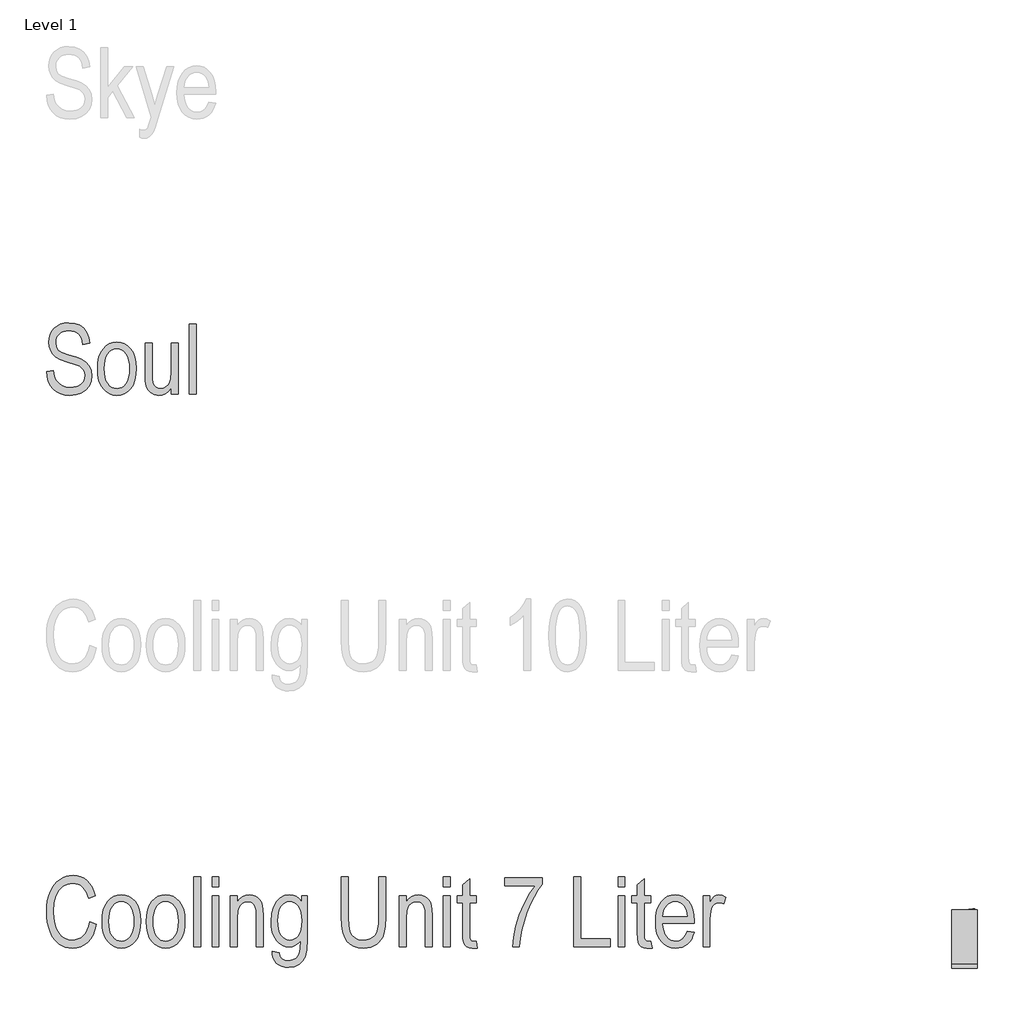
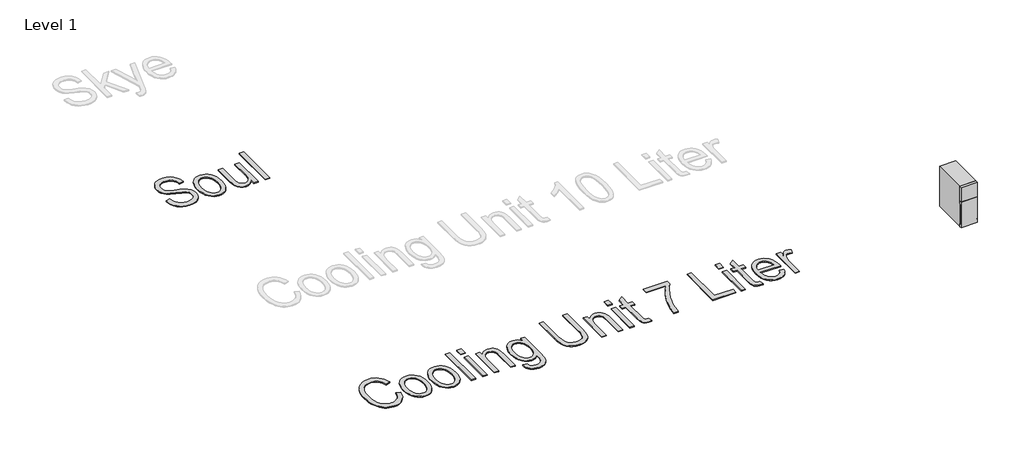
# One storey, part 1 of 3: 3 proxies.
"""IFC4 building model written with IfcOpenShell, lengths in millimetres."""

import ifcopenshell
import ifcopenshell.guid

model = None  # the IFC model being written
_history = None  # IfcOwnerHistory: only IFC2X3 demands one
_inside = {}  # id of a spatial element -> (the spatial element, [elements in it])
_under = {}  # id of a project, library or spatial element -> (it, [spatial elements below it])
_declared = {}  # id of a project -> (the project, [libraries it declares])
_typed = {}  # id of a type object -> (the type object, [elements of that type])
_made_of = {}  # id of a material, layer set ... -> (it, [elements and type objects made of it])


def new_model(schema):
    """Start an empty IFC model of exactly this schema.

    Asked for "IFC4X3", IfcOpenShell would pick the latest addendum, in which some entities
    have other attributes; the version numbers below select the first issue.
    IFC2X3 requires an IfcOwnerHistory on every rooted entity: one is made here for all.
    """
    global model, _history
    if schema == "IFC4X3":
        model = ifcopenshell.file(schema_version=(4, 3, 0, 0))
    else:
        model = ifcopenshell.file(schema=schema)
    _inside.clear()
    _under.clear()
    _declared.clear()
    _typed.clear()
    _made_of.clear()
    _history = None
    if model.schema == "IFC2X3":
        org = make("IfcOrganization", Name="unknown")
        user = make(
            "IfcPersonAndOrganization",
            ThePerson=make("IfcPerson", FamilyName="unknown"),
            TheOrganization=org,
        )
        app = make(
            "IfcApplication",
            ApplicationDeveloper=org,
            Version="unknown",
            ApplicationFullName="unknown",
            ApplicationIdentifier="unknown",
        )
        _history = make(
            "IfcOwnerHistory",
            OwningUser=user,
            OwningApplication=app,
            ChangeAction="ADDED",
            CreationDate=0,
        )
    return model


def make(cls, **values):
    """One entity of the class cls with the attributes given. An attribute that is None is left unset."""
    return model.create_entity(
        cls, **{name: value for name, value in values.items() if value is not None}
    )


def rooted(cls, **values):
    """An entity with a GlobalId (a new one), such as an element, a storey or a relation."""
    return make(cls, GlobalId=ifcopenshell.guid.new(), OwnerHistory=_history, **values)


def si_unit(unit_type, name, prefix=None):
    """IfcSIUnit, for example si_unit("LENGTHUNIT", "METRE", prefix="MILLI")."""
    return make("IfcSIUnit", UnitType=unit_type, Prefix=prefix, Name=name)


def assignment(units):
    """IfcUnitAssignment: the units of a project."""
    return None if units is None else make("IfcUnitAssignment", Units=units)


def point(xyz):
    """IfcCartesianPoint."""
    return None if xyz is None else make("IfcCartesianPoint", Coordinates=xyz)


def direction(xyz):
    """IfcDirection."""
    return None if xyz is None else make("IfcDirection", DirectionRatios=xyz)


def frame(location, z_axis=None, x_axis=None):
    """IfcAxis2Placement3D, a coordinate frame: its origin and axes. An axis left out is left unset."""
    return make(
        "IfcAxis2Placement3D",
        Location=point(location),
        Axis=direction(z_axis),
        RefDirection=direction(x_axis),
    )


def frame_2d(location, x_axis=None):
    """IfcAxis2Placement2D, a coordinate frame in the plane: its origin and x axis."""
    return make(
        "IfcAxis2Placement2D", Location=point(location), RefDirection=direction(x_axis)
    )


def origin():
    """The frame at (0, 0, 0) with its axes left unset."""
    return frame((0.0, 0.0, 0.0))


def origin_with_axes():
    """The frame at (0, 0, 0) with the z axis (0, 0, 1) and the x axis (1, 0, 0) written out."""
    return frame((0.0, 0.0, 0.0), z_axis=(0.0, 0.0, 1.0), x_axis=(1.0, 0.0, 0.0))


def place(relative_to, where):
    """IfcLocalPlacement: puts the frame where relative to a parent placement (None: the world)."""
    return make(
        "IfcLocalPlacement", PlacementRelTo=relative_to, RelativePlacement=where
    )


def context(
    kind, dimensions, precision=None, world=None, true_north=None, identifier=None
):
    """IfcGeometricRepresentationContext, for example the 3D "Model" context."""
    return make(
        "IfcGeometricRepresentationContext",
        ContextIdentifier=identifier,
        ContextType=kind,
        CoordinateSpaceDimension=dimensions,
        Precision=precision,
        WorldCoordinateSystem=world,
        TrueNorth=true_north,
    )


def project(units=None, contexts=None):
    """IfcProject with its units and contexts."""
    return rooted(
        "IfcProject",
        Name="project",
        RepresentationContexts=contexts,
        UnitsInContext=assignment(units),
    )


def spatial(cls, under=None, at=None, **own):
    """A site, building, storey or space (cls), placed at a placement, below another one or the project."""
    s = rooted(cls, ObjectPlacement=at, **own)
    if under is not None:
        _under.setdefault(under.id(), (under, []))[1].append(s)
    return s


def polyline(points):
    """IfcPolyline through the points."""
    return make("IfcPolyline", Points=[point(p) for p in points])


def circle_curve(where, radius):
    """IfcCircle in the frame where."""
    return make("IfcCircle", Position=where, Radius=radius)


def ellipse_curve(where, semi_axis1, semi_axis2):
    """IfcEllipse in the frame where."""
    return make(
        "IfcEllipse", Position=where, SemiAxis1=semi_axis1, SemiAxis2=semi_axis2
    )


def trimmed(basis, trim1, trim2, sense, master):
    """IfcTrimmedCurve: the piece of a basis curve between two trims."""
    return make(
        "IfcTrimmedCurve",
        BasisCurve=basis,
        Trim1=trim1,
        Trim2=trim2,
        SenseAgreement=sense,
        MasterRepresentation=master,
    )


def segment(curve, same_sense, transition):
    """IfcCompositeCurveSegment."""
    return make(
        "IfcCompositeCurveSegment",
        Transition=transition,
        SameSense=same_sense,
        ParentCurve=curve,
    )


def composite_curve(segments, self_intersect=None):
    """IfcCompositeCurve: segments joined end to end."""
    return make("IfcCompositeCurve", Segments=segments, SelfIntersect=self_intersect)


def outline(outer, holes=None, kind="AREA"):
    """IfcArbitraryClosedProfileDef: a profile drawn as a closed curve; with holes, ...WithVoids."""
    if holes is None:
        return make("IfcArbitraryClosedProfileDef", ProfileType=kind, OuterCurve=outer)
    return make(
        "IfcArbitraryProfileDefWithVoids",
        ProfileType=kind,
        OuterCurve=outer,
        InnerCurves=holes,
    )


def extrude(swept, where, along, depth):
    """IfcExtrudedAreaSolid: the profile swept, set in the frame where, extruded along a direction by depth."""
    return make(
        "IfcExtrudedAreaSolid",
        SweptArea=swept,
        Position=where,
        ExtrudedDirection=direction(along),
        Depth=depth,
    )


def shape(context_of_items, identifier, shape_type, items):
    """IfcShapeRepresentation: the items that make up one representation, for example the "Body"."""
    return make(
        "IfcShapeRepresentation",
        ContextOfItems=context_of_items,
        RepresentationIdentifier=identifier,
        RepresentationType=shape_type,
        Items=items,
    )


def source(mapping_origin, context_of_items, identifier, shape_type, items):
    """IfcRepresentationMap: a shape defined once, which mapped items show again and again."""
    return make(
        "IfcRepresentationMap",
        MappingOrigin=mapping_origin,
        MappedRepresentation=shape(context_of_items, identifier, shape_type, items),
    )


def transform(
    local_origin,
    x_axis=None,
    y_axis=None,
    z_axis=None,
    scale=None,
    scale2=None,
    scale3=None,
    uniform=True,
):
    """IfcCartesianTransformationOperator3D, or its non-uniform kind. x_axis, y_axis, z_axis: its Axis1, 2, 3."""
    if uniform:
        return make(
            "IfcCartesianTransformationOperator3D",
            Axis1=direction(x_axis),
            Axis2=direction(y_axis),
            LocalOrigin=point(local_origin),
            Scale=scale,
            Axis3=direction(z_axis),
        )
    return make(
        "IfcCartesianTransformationOperator3DnonUniform",
        Axis1=direction(x_axis),
        Axis2=direction(y_axis),
        LocalOrigin=point(local_origin),
        Scale=scale,
        Axis3=direction(z_axis),
        Scale2=scale2,
        Scale3=scale3,
    )


def mapped(mapping_source, mapping_target):
    """IfcMappedItem: shows the shape of a source again, moved by a transform."""
    return make(
        "IfcMappedItem", MappingSource=mapping_source, MappingTarget=mapping_target
    )


def made_of(thing, what):
    """Note that an element or type object is made of a material, layer set ...; save() writes the relation."""
    if what is not None:
        _made_of.setdefault(what.id(), (what, []))[1].append(thing)
    return thing


def element(
    cls,
    number,
    at=None,
    inside=None,
    cuts=None,
    type_object=None,
    material=None,
    context=None,
    identifier="Body",
    shape_type=None,
    held_by="IfcProductDefinitionShape",
    body=None,
    shapes=None,
    **own,
):
    """One element of the class cls, such as IfcWall. Its Tag is "e" and its number.

    at: its placement. inside: the storey or other place that contains it. cuts: it is an
    opening in that element (IfcRelVoidsElement). A single representation is given by context,
    identifier, shape_type and body (its items); several are given by shapes. held_by: the class
    of the entity that holds the representations. save() writes the other relations.
    """
    e = rooted(cls, Tag="e%d" % number, ObjectPlacement=at, **own)
    if body is not None:
        shapes = [shape(context, identifier, shape_type, body)]
    if shapes is not None:
        e.Representation = make(held_by, Representations=shapes)
    if inside is not None:
        _inside.setdefault(inside.id(), (inside, []))[1].append(e)
    if cuts is not None:
        rooted(
            "IfcRelVoidsElement", RelatingBuildingElement=cuts, RelatedOpeningElement=e
        )
    if type_object is not None:
        _typed.setdefault(type_object.id(), (type_object, []))[1].append(e)
    return made_of(e, material)


def aggregate(whole, parts):
    """IfcRelAggregates: a whole, such as a stair, and the parts it consists of."""
    return rooted("IfcRelAggregates", RelatingObject=whole, RelatedObjects=parts)


def save(model, path):
    """Write the relations noted so far, then the file.

    IfcRelAggregates (storeys below a building ...), IfcRelContainedInSpatialStructure (elements
    in a storey), IfcRelDefinesByType, IfcRelAssociatesMaterial and IfcRelDeclares: one each for
    every whole, place, type object, material and project.
    """
    for whole, parts in _under.values():
        aggregate(whole, parts)
    for where, things in _inside.values():
        rooted(
            "IfcRelContainedInSpatialStructure",
            RelatedElements=things,
            RelatingStructure=where,
        )
    for kind, things in _typed.values():
        rooted("IfcRelDefinesByType", RelatedObjects=things, RelatingType=kind)
    for what, things in _made_of.values():
        rooted("IfcRelAssociatesMaterial", RelatedObjects=things, RelatingMaterial=what)
    for by, libraries in _declared.values():
        rooted("IfcRelDeclares", RelatingContext=by, RelatedDefinitions=libraries)
    model.write(path)


def plane_surface(at):
    """IfcPlane: the flat surface through the origin of the frame at, square to its z axis."""
    return make("IfcPlane", Position=at)


def revolved_surface(curve, axis_point, axis_direction):
    """IfcSurfaceOfRevolution: the curve turned about the line through axis_point along axis_direction."""
    return make(
        "IfcSurfaceOfRevolution",
        SweptCurve=make("IfcArbitraryOpenProfileDef", ProfileType="CURVE", Curve=curve),
        AxisPosition=make("IfcAxis1Placement", Location=point(axis_point), Axis=direction(axis_direction)),
    )


def advanced_brep(points, edges, surfaces, faces):
    """IfcAdvancedBrep: a solid bounded by faces that lie on surfaces and meet in shared edges.

    An edge is (start, end): straight between two places in points (the first is 0);
    or (start, end, curve); or (start, end, curve, False) where it runs against its curve.
    A face is (place in surfaces, loops), or (place, loops, False) where it looks against
    its surface's normal. A loop lists edges by number (the first is 1), with a minus sign
    where the edge is run from its end to its start. The first loop is the outer one.
    """
    corners = [point(p) for p in points]
    vertices = [make("IfcVertexPoint", VertexGeometry=c) for c in corners]
    made = []
    for start, end, *more in edges:
        made.append(
            make(
                "IfcEdgeCurve",
                EdgeStart=vertices[start],
                EdgeEnd=vertices[end],
                EdgeGeometry=more[0] if more else make("IfcPolyline", Points=[corners[start], corners[end]]),
                SameSense=more[1] if len(more) > 1 else True,
            )
        )
    hull = []
    for where, loops, *sense in faces:
        bounds = []
        for j, loop in enumerate(loops):
            ring = [make("IfcOrientedEdge", EdgeElement=made[abs(k) - 1], Orientation=k > 0) for k in loop]
            bounds.append(
                make(
                    "IfcFaceOuterBound" if j == 0 else "IfcFaceBound",
                    Bound=make("IfcEdgeLoop", EdgeList=ring),
                    Orientation=True,
                )
            )
        hull.append(make("IfcAdvancedFace", Bounds=bounds, FaceSurface=surfaces[where], SameSense=sense[0] if sense else True))
    return make("IfcAdvancedBrep", Outer=make("IfcClosedShell", CfsFaces=hull))


def specialty_equipment_9da87bf8(model_context):
    return source(origin(), model_context, "Body", "SolidModel", [
        extrude(outline(polyline([(58.778379, 8.795824), (58.778379, 12.5374018), (72.4183514, 12.5374018), (72.4183514, 8.795824), (58.778379, 8.795824)])), frame((0.0, 0.0, 58.9800138), z_axis=(0.0, 0.0, 1.0), x_axis=(1.0, 0.0, 0.0)), (0.0, 0.0, 1.0), 18.567318),
        extrude(outline(polyline([(75.5441022, 4.795824), (55.6526282, 4.795824), (55.6526282, 8.795824), (75.5441022, 8.795824), (75.5441022, 4.795824)])), frame((0.0, 0.0, 55.6), z_axis=(0.0, 0.0, 1.0), x_axis=(1.0, 0.0, 0.0)), (0.0, 0.0, 1.0), 25.195737),
        extrude(outline(polyline([(50.3483652, 4.795824), (27.8483652, 4.795824), (27.8483652, 8.795824), (50.3483652, 8.795824), (50.3483652, 4.795824)])), frame((0.0, 0.0, 53.1), z_axis=(0.0, 0.0, 1.0), x_axis=(1.0, 0.0, 0.0)), (0.0, 0.0, 1.0), 30.0),
        advanced_brep(
        [(-94.0051167, -419.004176, 320.7768465), (89.3098471, -419.004176, 320.7768465), (90.8173493, -394.0019593, 320.7768465), (-95.512619, -394.0019593, 320.7768465), (-94.0051167, -419.004176, 11.6), (-95.512619, -394.0019593, 11.6), (90.8173493, -394.0019593, 11.6), (89.3098471, -419.004176, 11.6), (90.8173493, -394.0019593, 290.4933922), (83.5523652, -394.0019593, 290.4933922), (83.5523652, -394.0019593, 42.6090434), (90.8173493, -394.0019593, 42.6090434), (-95.512619, -394.0019593, 42.6090434), (-88.2476348, -394.0019593, 42.6090434), (-88.2476348, -394.0019593, 290.4933922), (-95.512619, -394.0019593, 290.4933922), (-95.0244948, -402.097593, 287.5468225), (-94.6674402, -408.0194117, 279.0895889), (-94.6674402, -408.0194117, 54.7130542), (-95.0641675, -401.4396132, 45.316128), (90.3688979, -401.4396132, 45.316128), (89.9721706, -408.0194117, 54.7130542), (89.9721706, -408.0194117, 279.0895889), (90.3292252, -402.097593, 287.5468225), (-88.2476348, -402.097593, 287.5468225), (-88.2476348, -401.4396132, 45.316128), (-88.2476348, -408.0194117, 54.7130542), (-88.2476348, -408.0194117, 279.0895889), (83.5523652, -402.097593, 287.5468225), (83.5523652, -408.0194117, 279.0895889), (83.5523652, -408.0194117, 54.7130542), (83.5523652, -401.4396132, 45.316128)],
        [
            (0, 1),
            (1, 2),
            (2, 3),
            (3, 0),
            (4, 5),
            (5, 6),
            (6, 7),
            (7, 4),
            (0, 4),
            (7, 1),
            (2, 8),
            (8, 9),
            (9, 10),
            (10, 11),
            (11, 6),
            (5, 12),
            (12, 13),
            (13, 14),
            (14, 15),
            (15, 3),
            (15, 16),
            (16, 17, ellipse_curve(frame((-95.2100929, -399.0194117, 279.0895889), z_axis=(0.9981872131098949, 0.06018544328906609, 0.0), x_axis=(0.06018544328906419, -0.9981872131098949, 0.0)), 9.0163447, 9.0)),
            (17, 18),
            (18, 19, ellipse_curve(frame((-95.2703877, -398.0194117, 54.7130542), z_axis=(0.9981872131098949, 0.06018544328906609, 0.0), x_axis=(0.06018544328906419, -0.9981872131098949, 0.0)), 10.0181608, 10.0)),
            (19, 12),
            (11, 20),
            (20, 21, ellipse_curve(frame((90.5751181, -398.0194117, 54.7130542), z_axis=(-0.9981872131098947, 0.060185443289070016, 0.0), x_axis=(-0.06018544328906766, -0.9981872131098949, 0.0)), 10.0181608, 10.0)),
            (21, 22),
            (22, 23, ellipse_curve(frame((90.5148233, -399.0194117, 279.0895889), z_axis=(-0.9981872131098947, 0.060185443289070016, 0.0), x_axis=(-0.06018544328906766, -0.9981872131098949, 0.0)), 9.0163447, 9.0)),
            (23, 8),
            (24, 14),
            (13, 25),
            (25, 26, circle_curve(frame((-88.2476348, -398.0194117, 54.7130542), z_axis=(-1.0, 0.0, 0.0), x_axis=(0.0, -1.0, 0.0)), 10.0)),
            (26, 27),
            (27, 24, circle_curve(frame((-88.2476348, -399.0194117, 279.0895889), z_axis=(-1.0, 0.0, 0.0), x_axis=(0.0, -1.0, 0.0)), 9.0)),
            (27, 17),
            (16, 24),
            (26, 18),
            (25, 19),
            (28, 29, circle_curve(frame((83.5523652, -399.0194117, 279.0895889), z_axis=(1.0, 0.0, 0.0), x_axis=(0.0, -1.0, 0.0)), 9.0)),
            (29, 30),
            (30, 31, circle_curve(frame((83.5523652, -398.0194117, 54.7130542), z_axis=(1.0, 0.0, 0.0), x_axis=(0.0, -1.0, 0.0)), 10.0)),
            (31, 10),
            (9, 28),
            (28, 23),
            (22, 29),
            (21, 30),
            (20, 31),
        ],
        [
            plane_surface(frame((-136.410899, -419.004176, 320.7768465), z_axis=(0.0, 0.0, 1.0), x_axis=(1.0, 0.0, 0.0))),
            plane_surface(frame((-136.410899, -419.004176, 11.6), z_axis=(0.0, 0.0, -1.0), x_axis=(-1.0, 0.0, 0.0))),
            plane_surface(frame((-94.0051167, -419.004176, 320.7768465), z_axis=(0.0, -1.0, 0.0), x_axis=(0.0, 0.0, -1.0))),
            plane_surface(frame((90.8173493, -394.0019593, 320.7768465), z_axis=(0.0, 1.0, 0.0), x_axis=(0.0, 0.0, -1.0))),
            plane_surface(frame((-95.512619, -394.0019593, 320.7768465), z_axis=(-0.9981872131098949, -0.06018544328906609, 0.0), x_axis=(0.0, 0.0, -1.0))),
            plane_surface(frame((89.3098471, -419.004176, 320.7768465), z_axis=(0.9981872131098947, -0.060185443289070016, 0.0), x_axis=(0.0, 0.0, -1.0))),
            plane_surface(frame((-88.2476348, -408.0194117, 279.0895889), z_axis=(-1.0, 0.0, 0.0), x_axis=(0.0, 0.0, -1.0))),
            revolved_surface(polyline([(-88.2476348, -408.0194117, 279.0895889), (-95.75274560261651, -408.0194117, 279.0895889)]), (-95.7476348, -399.0194117, 279.0895889), (1.0, 0.0, 0.0)),
            plane_surface(frame((-88.2476348, -408.0194117, 279.0895889), z_axis=(0.0, 1.0, 0.0), x_axis=(-1.0, 0.0, 0.0))),
            revolved_surface(polyline([(-88.2476348, -408.0194117, 54.7130542), (-95.87333514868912, -408.0194117, 54.7130542)]), (-95.7476348, -398.0194117, 54.7130542), (1.0, 0.0, 0.0)),
            plane_surface(frame((-88.2476348, -401.4396132, 45.316128), z_axis=(0.0, 0.34202014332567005, 0.939692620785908), x_axis=(-1.0, 0.0, 0.0))),
            plane_surface(frame((-88.2476348, -394.0019593, 290.4933922), z_axis=(0.0, 0.3420201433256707, -0.9396926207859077), x_axis=(-1.0, 0.0, 0.0))),
            plane_surface(frame((83.5523652, -395.4757807, 289.9569651), z_axis=(1.0, 0.0, 0.0), x_axis=(0.0, 0.9396926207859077, 0.3420201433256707))),
            revolved_surface(polyline([(83.5523652, -408.0194117, 279.0895889), (91.05747600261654, -408.0194117, 279.0895889)]), (91.0523652, -399.0194117, 279.0895889), (-1.0, 0.0, 0.0)),
            plane_surface(frame((83.5523652, -408.0194117, 54.7130542), z_axis=(0.0, 1.0, 0.0), x_axis=(1.0, 0.0, 0.0))),
            revolved_surface(polyline([(83.5523652, -408.0194117, 54.7130542), (91.17806554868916, -408.0194117, 54.7130542)]), (91.0523652, -398.0194117, 54.7130542), (-1.0, 0.0, 0.0)),
            plane_surface(frame((83.5523652, -394.0019593, 42.6090434), z_axis=(0.0, 0.34202014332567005, 0.939692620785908), x_axis=(1.0, 0.0, 0.0))),
            plane_surface(frame((83.5523652, -402.097593, 287.5468225), z_axis=(0.0, 0.3420201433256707, -0.9396926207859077), x_axis=(1.0, 0.0, 0.0))),
        ],
        [
            (0, [[1, 2, 3, 4]]),
            (1, [[5, 6, 7, 8]]),
            (2, [[-1, 9, -8, 10]]),
            (3, [[-3, 11, 12, 13, 14, 15, -6, 16, 17, 18, 19, 20]]),
            (4, [[-4, -20, 21, 22, 23, 24, 25, -16, -5, -9]]),
            (5, [[-2, -10, -7, -15, 26, 27, 28, 29, 30, -11]]),
            (6, [[31, -18, 32, 33, 34, 35]]),
            (7, [[-35, 36, -22, 37]]),
            (8, [[-34, 38, -23, -36]]),
            (9, [[-33, 39, -24, -38]]),
            (10, [[-32, -17, -25, -39]]),
            (11, [[-31, -37, -21, -19]]),
            (12, [[40, 41, 42, 43, -13, 44]]),
            (13, [[-40, 45, -29, 46]]),
            (14, [[-41, -46, -28, 47]]),
            (15, [[-42, -47, -27, 48]]),
            (16, [[-43, -48, -26, -14]]),
            (17, [[-44, -12, -30, -45]]),
        ],
    ),
        extrude(outline(polyline([(-94.0051167, -419.004176), (-95.7476348, -390.104176), (91.0523652, -390.104176), (89.3098471, -419.004176), (-94.0051167, -419.004176)])), frame((0.0, 0.0, 321.8461849), z_axis=(0.0, 0.0, 1.0), x_axis=(1.0, 0.0, 0.0)), (0.0, 0.0, 1.0), 173.2368397),
        extrude(outline(composite_curve([segment(trimmed(circle_curve(frame_2d((-61.8476348, -356.004176)), 3.1), [point((-64.9476348, -356.004176))], [point((-58.7476348, -356.004176))], False, "CARTESIAN"), True, "CONTINUOUS"), segment(trimmed(circle_curve(frame_2d((-61.8476348, -356.004176)), 3.1), [point((-58.7476348, -356.004176))], [point((-64.9476348, -356.004176))], False, "CARTESIAN"), True, "CONTINUOUS")], self_intersect=False)), frame((0.0, 0.0, 6.1), z_axis=(0.0, 0.0, 1.0), x_axis=(1.0, 0.0, 0.0)), (0.0, 0.0, 1.0), 5.5),
        extrude(outline(composite_curve([segment(trimmed(circle_curve(frame_2d((57.1523652, -356.004176)), 3.1), [point((60.2523652, -356.004176))], [point((54.0523652, -356.004176))], False, "CARTESIAN"), True, "CONTINUOUS"), segment(trimmed(circle_curve(frame_2d((57.1523652, -356.004176)), 3.1), [point((54.0523652, -356.004176))], [point((60.2523652, -356.004176))], False, "CARTESIAN"), True, "CONTINUOUS")], self_intersect=False)), frame((0.0, 0.0, 6.1), z_axis=(0.0, 0.0, 1.0), x_axis=(1.0, 0.0, 0.0)), (0.0, 0.0, 1.0), 5.5),
        extrude(outline(composite_curve([segment(trimmed(circle_curve(frame_2d((-61.8476348, -64.504176)), 3.1), [point((-64.9476348, -64.504176))], [point((-58.7476348, -64.504176))], False, "CARTESIAN"), True, "CONTINUOUS"), segment(trimmed(circle_curve(frame_2d((-61.8476348, -64.504176)), 3.1), [point((-58.7476348, -64.504176))], [point((-64.9476348, -64.504176))], False, "CARTESIAN"), True, "CONTINUOUS")], self_intersect=False)), frame((0.0, 0.0, 6.1), z_axis=(0.0, 0.0, 1.0), x_axis=(1.0, 0.0, 0.0)), (0.0, 0.0, 1.0), 5.5),
        extrude(outline(composite_curve([segment(trimmed(circle_curve(frame_2d((57.1523652, -64.504176)), 3.1), [point((60.2523652, -64.504176))], [point((54.0523652, -64.504176))], False, "CARTESIAN"), True, "CONTINUOUS"), segment(trimmed(circle_curve(frame_2d((57.1523652, -64.504176)), 3.1), [point((54.0523652, -64.504176))], [point((60.2523652, -64.504176))], False, "CARTESIAN"), True, "CONTINUOUS")], self_intersect=False)), frame((0.0, 0.0, 6.1), z_axis=(0.0, 0.0, 1.0), x_axis=(1.0, 0.0, 0.0)), (0.0, 0.0, 1.0), 5.5),
        extrude(outline(composite_curve([segment(trimmed(circle_curve(frame_2d((-61.8476348, -356.004176)), 12.0), [point((-73.8476348, -356.004176))], [point((-49.8476348, -356.004176))], False, "CARTESIAN"), True, "CONTINUOUS"), segment(trimmed(circle_curve(frame_2d((-61.8476348, -356.004176)), 12.0), [point((-49.8476348, -356.004176))], [point((-73.8476348, -356.004176))], False, "CARTESIAN"), True, "CONTINUOUS")], self_intersect=False)), origin_with_axes(), (0.0, 0.0, 1.0), 6.1),
        extrude(outline(composite_curve([segment(trimmed(circle_curve(frame_2d((57.1523652, -356.004176)), 12.0), [point((69.1523652, -356.004176))], [point((45.1523652, -356.004176))], False, "CARTESIAN"), True, "CONTINUOUS"), segment(trimmed(circle_curve(frame_2d((57.1523652, -356.004176)), 12.0), [point((45.1523652, -356.004176))], [point((69.1523652, -356.004176))], False, "CARTESIAN"), True, "CONTINUOUS")], self_intersect=False)), origin_with_axes(), (0.0, 0.0, 1.0), 6.1),
        extrude(outline(composite_curve([segment(trimmed(circle_curve(frame_2d((-61.8476348, -64.504176)), 12.0), [point((-73.8476348, -64.504176))], [point((-49.8476348, -64.504176))], False, "CARTESIAN"), True, "CONTINUOUS"), segment(trimmed(circle_curve(frame_2d((-61.8476348, -64.504176)), 12.0), [point((-49.8476348, -64.504176))], [point((-73.8476348, -64.504176))], False, "CARTESIAN"), True, "CONTINUOUS")], self_intersect=False)), origin_with_axes(), (0.0, 0.0, 1.0), 6.1),
        extrude(outline(composite_curve([segment(trimmed(circle_curve(frame_2d((57.1523652, -64.504176)), 12.0), [point((69.1523652, -64.504176))], [point((45.1523652, -64.504176))], False, "CARTESIAN"), True, "CONTINUOUS"), segment(trimmed(circle_curve(frame_2d((57.1523652, -64.504176)), 12.0), [point((45.1523652, -64.504176))], [point((69.1523652, -64.504176))], False, "CARTESIAN"), True, "CONTINUOUS")], self_intersect=False)), origin_with_axes(), (0.0, 0.0, 1.0), 6.1),
        extrude(outline(polyline([(91.0523652, 4.795824), (91.0523652, -390.104176), (-95.7476348, -390.104176), (-95.7476348, 4.795824), (91.0523652, 4.795824)])), frame((0.0, 0.0, 11.6), z_axis=(0.0, 0.0, 1.0), x_axis=(1.0, 0.0, 0.0)), (0.0, 0.0, 1.0), 483.4830247),
    ])


model = new_model("IFC4")

# Units and contexts
model_context = context("Model", 3, world=origin())
ifc_project = project(units=[si_unit("LENGTHUNIT", "METRE", prefix="MILLI")], contexts=[model_context])

# Site, building, storey
site = spatial("IfcSite", under=ifc_project)
building = spatial("IfcBuilding", under=site)
storey = spatial("IfcBuildingStorey", under=building, Name="Level 1", Elevation=0.0)

# Proxies
placement = place(None, origin())
specialty_equipment_shape = specialty_equipment_9da87bf8(model_context)
element("IfcBuildingElementProxy", 1, Name="QF_SCHAERER_Cooling_Unit 7 Liter : Cooling Unit 7 Liter", ObjectType="QF_SCHAERER_Cooling_Unit 7 Liter : Cooling Unit 7 Liter", at=placement, inside=storey, context=model_context, shape_type="MappedRepresentation", body=[
    mapped(specialty_equipment_shape, transform((-22737.7283939, 2887.7616131, 0.0), x_axis=(1.0, 0.0, 0.0), y_axis=(0.0, 1.0, 0.0), z_axis=(0.0, 0.0, 1.0))),
])
element("IfcBuildingElementProxy", 2, Name="500mm", ObjectType="500mm", at=placement, inside=storey, context=model_context, shape_type="SweptSolid", body=[
    extrude(outline(polyline([(-29380.882871, 6787.0556777), (-29331.6607147, 6795.2593704), (-29324.7548718, 6756.0514874), (-29312.4974012, 6726.6175352), (-29294.3435265, 6704.473974), (-29269.7484711, 6687.1372639), (-29240.2023591, 6675.9373006), (-29207.1953141, 6672.2039795), (-29183.5976804, 6673.7061205), (-29162.7960318, 6678.2125435), (-29144.7903683, 6685.7232485), (-29129.58069, 6696.2382356), (-29117.4954649, 6709.1566482), (-29108.8631613, 6723.87763), (-29103.6837791, 6740.401181), (-29101.9573184, 6758.7273012), (-29104.4729038, 6779.8454009), (-29112.0196602, 6798.0793898), (-29124.6456561, 6813.3491538), (-29142.3989599, 6825.5745787), (-29174.4927031, 6838.7613738), (-29230.1400172, 6856.9152485), (-29281.1086628, 6875.1812831), (-29314.0355936, 6893.0627696), (-29335.2818759, 6913.1393848), (-29351.2085762, 6937.9908055), (-29361.1587582, 6967.008164), (-29364.4754856, 6999.5825923), (-29362.0480257, 7029.0646131), (-29354.7656461, 7055.7266144), (-29342.6283468, 7079.5685964), (-29325.6361278, 7100.590559), (-29304.534051, 7117.7510178), (-29280.0671784, 7130.0084884), (-29252.2355099, 7137.3629707), (-29221.0390456, 7139.8144649), (-29178.6265951, 7135.3440932), (-29141.8862291, 7121.9329784), (-29111.7793177, 7100.1739652), (-29089.2672312, 7070.6598988), (-29074.8787232, 7034.3361266), (-29069.1425475, 6992.1479958), (-29118.3647038, 6983.9443031), (-29121.7495282, 7007.3817084), (-29127.802155, 7027.5744892), (-29136.5225843, 7044.5226454), (-29147.9108159, 7058.226177), (-29161.9187815, 7068.797244), (-29178.4984124, 7076.3480061), (-29197.6497088, 7080.8784634), (-29219.3726705, 7082.3886158), (-29241.3760319, 7080.910509), (-29260.599431, 7076.4761888), (-29277.0428678, 7069.0856551), (-29290.7063424, 7058.7389078), (-29301.4456491, 7046.0448149), (-29309.1165825, 7031.6122442), (-29313.7191426, 7015.4411956), (-29315.2533292, 6997.5316692), (-29311.2796656, 6966.6075931), (-29299.3586746, 6943.5667529), (-29288.4471223, 6934.057199), (-29271.4789376, 6924.7559419), (-29219.3726705, 6906.7783184), (-29165.8243481, 6890.6272983), (-29131.054791, 6876.7835669), (-29096.9902388, 6854.5919371), (-29072.4752976, 6827.4973192), (-29057.6701959, 6795.1151649), (-29052.735162, 6757.0609262), (-29057.7983786, 6718.2375912), (-29072.9880284, 6683.0354176), (-29096.8780789, 6653.633511), (-29128.0424976, 6632.2109775), (-29166.3851474, 6619.1363422), (-29211.8098913, 6614.7781305), (-29248.1296578, 6617.6822697), (-29280.5638864, 6626.3946875), (-29309.1125768, 6640.9153839), (-29333.7757292, 6661.2443588), (-29353.7602131, 6686.5324018), (-29368.272898, 6715.9303027), (-29377.313784, 6749.4380613), (-29380.882871, 6787.0556777)])), origin_with_axes(), (0.0, 0.0, 1.0), 10.0),
    extrude(outline(polyline([(-29011.7166984, 6807.5649095), (-29009.2491814, 6852.3847913), (-29001.8466306, 6891.348326), (-28989.5090458, 6924.4555137), (-28972.2364272, 6951.7063543), (-28951.1824189, 6972.988688), (-28927.5006653, 6988.190355), (-28901.1911663, 6997.3113551), (-28872.2539221, 7000.3516885), (-28843.7332716, 6997.3113551), (-28817.6480924, 6988.190355), (-28793.9983844, 6972.988688), (-28772.7841478, 6951.7063543), (-28755.2872094, 6924.6958563), (-28742.7893963, 6892.3096963), (-28735.2907084, 6854.5478743), (-28732.7911458, 6811.4103905), (-28735.2466456, 6764.9081107), (-28742.613145, 6724.7428632), (-28754.8906442, 6690.9146478), (-28772.0791429, 6663.4234647), (-28793.0730656, 6642.1411309), (-28816.7668363, 6626.939464), (-28843.1604552, 6617.8184638), (-28872.2539221, 6614.7781305), (-28900.9307952, 6617.8264753), (-28927.1000943, 6626.9715097), (-28950.7618194, 6642.2132337), (-28971.9159704, 6663.5516474), (-28989.3287889, 6690.8425451), (-29001.7665164, 6723.9417213), (-29009.2291529, 6762.8491761), (-29011.7166984, 6807.5649095)]), holes=[polyline([(-28962.4945421, 6807.6930922), (-28960.8481955, 6773.6766085), (-28955.9091559, 6744.3067476), (-28947.6774232, 6719.5835096), (-28936.1529974, 6699.5068944), (-28922.1931004, 6683.9727536), (-28906.6549539, 6672.8769387), (-28889.5385579, 6666.2194498), (-28870.8439124, 6664.0002868), (-28853.2268027, 6666.2394783), (-28836.9075429, 6672.9570529), (-28821.8861329, 6684.1530105), (-28808.1625727, 6699.8273511), (-28796.7222668, 6720.0041091), (-28788.5506197, 6744.7073186), (-28783.6476315, 6773.9369796), (-28782.0133021, 6807.6930922), (-28783.6596486, 6841.597416), (-28788.5986883, 6870.8871627), (-28796.8304209, 6895.5623322), (-28808.3548467, 6915.6229246), (-28822.3147438, 6931.1570654), (-28837.8528903, 6942.2528803), (-28854.9692863, 6948.9103692), (-28873.6639318, 6951.1295322), (-28891.4372641, 6948.8983521), (-28907.8406438, 6942.2048118), (-28922.874071, 6931.0489113), (-28936.5375455, 6915.4306506), (-28947.8937315, 6895.3099725), (-28956.0052929, 6870.6468201), (-28960.8722298, 6841.4411934), (-28962.4945421, 6807.6930922)])]), origin_with_axes(), (0.0, 0.0, 1.0), 10.0),
    extrude(outline(polyline([(-28478.4766713, 6622.9818232), (-28478.4766713, 6672.844893), (-28496.7427059, 6647.4807415), (-28517.9569425, 6629.3268668), (-28542.1193812, 6618.4153145), (-28569.230022, 6614.7781305), (-28600.6027376, 6619.6010045), (-28627.0404192, 6634.0696266), (-28647.0369202, 6655.9247768), (-28659.0860939, 6682.9072349), (-28665.1427264, 6717.8209975), (-28667.161604, 6763.4700611), (-28667.161604, 6992.1479958), (-28617.9394476, 6992.1479958), (-28617.9394476, 6784.4920237), (-28616.5454608, 6736.2472604), (-28612.3635002, 6707.133765), (-28604.40015, 6689.5246667), (-28591.6619943, 6675.7930951), (-28575.4789286, 6666.9484889), (-28557.1808484, 6664.0002868), (-28540.0364124, 6665.9150159), (-28524.4942602, 6671.6592031), (-28510.5543917, 6681.2328484), (-28498.2168069, 6694.6359518), (-28489.5804976, 6710.5946978), (-28483.4117052, 6732.0652999), (-28478.4766713, 6791.5420721), (-28478.4766713, 6992.1479958), (-28429.2545149, 6992.1479958), (-28429.2545149, 6622.9818232), (-28478.4766713, 6622.9818232)])), origin_with_axes(), (0.0, 0.0, 1.0), 10.0),
    extrude(outline(polyline([(-28347.2175877, 6622.9818232), (-28347.2175877, 7131.6107721), (-28297.9954313, 7131.6107721), (-28297.9954313, 6622.9818232), (-28347.2175877, 6622.9818232)])), origin_with_axes(), (0.0, 0.0, 1.0), 10.0),
])
element("IfcBuildingElementProxy", 3, Name="500mm", ObjectType="500mm", at=placement, inside=storey, context=model_context, shape_type="SweptSolid", body=[
    extrude(outline(polyline([(-29069.1425475, 2803.4630631), (-29019.9203911, 2787.0556777), (-29030.5835894, 2746.4177564), (-29044.6276063, 2711.2836798), (-29062.0524419, 2681.6534479), (-29082.8580963, 2657.5270605), (-29106.579907, 2638.8244036), (-29132.7532118, 2625.465363), (-29161.3780107, 2617.4499386), (-29192.4543038, 2614.7781305), (-29219.7572186, 2616.5406426), (-29245.0092103, 2621.8281789), (-29268.2102788, 2630.6407394), (-29289.3604241, 2642.9783242), (-29308.5718061, 2659.2134641), (-29325.9565846, 2679.7186902), (-29341.5147597, 2704.4940025), (-29355.2463313, 2733.5394009), (-29366.4623174, 2766.1258464), (-29374.4737361, 2801.5242998), (-29379.2805873, 2839.7347612), (-29380.882871, 2880.7572305), (-29379.284593, 2921.0586722), (-29374.4897589, 2958.1315121), (-29366.4983688, 2991.9757503), (-29355.3104226, 3022.5913868), (-29341.3945884, 3049.8181931), (-29325.2195341, 3073.495941), (-29306.7852597, 3093.6246305), (-29286.0917652, 3110.2042614), (-29263.631753, 3123.1587254), (-29239.8979252, 3132.411914), (-29214.8902818, 3137.9638271), (-29188.6088228, 3139.8144649), (-29160.1682865, 3137.4711249), (-29133.810719, 3130.441105), (-29109.5361204, 3118.7244052), (-29087.3444907, 3102.3210254), (-29067.7806063, 3081.3751713), (-29051.3892437, 3056.0310483), (-29038.1704029, 3026.2886565), (-29028.1240839, 2992.1479958), (-29077.3462402, 2975.7406104), (-29094.9873841, 3022.3991127), (-29106.4637414, 3040.7292387), (-29119.7106222, 3055.7266144), (-29134.7280265, 3067.39124), (-29151.5159543, 3075.7231154), (-29170.0744057, 3080.7222407), (-29190.4033806, 3082.3886158), (-29229.867629, 3077.0690338), (-29263.6597929, 3061.1102878), (-29278.3607462, 3048.9850056), (-29291.5074843, 3033.8874871), (-29313.1383147, 2994.7757411), (-29327.0301147, 2943.7430042), (-29331.6607147, 2880.7572305), (-29329.3053576, 2831.9035994), (-29322.2392863, 2789.5552403), (-29310.4625009, 2753.7121531), (-29293.9750012, 2724.3743379), (-29273.5859407, 2701.5498061), (-29250.1044725, 2685.2465691), (-29223.5305968, 2675.4646269), (-29193.8643134, 2672.2039795), (-29171.5244725, 2674.2388799), (-29150.7789038, 2680.3435809), (-29131.6276074, 2690.5180826), (-29114.0705834, 2704.762385), (-29098.6926653, 2723.1405795), (-29086.0786866, 2745.7167573), (-29076.2286473, 2772.4909185), (-29069.1425475, 2803.4630631)])), origin_with_axes(), (0.0, 0.0, 1.0), 10.0),
    extrude(outline(polyline([(-28978.9019275, 2807.5649095), (-28976.4344105, 2852.3847913), (-28969.0318597, 2891.348326), (-28956.6942749, 2924.4555137), (-28939.4216563, 2951.7063543), (-28918.367648, 2972.988688), (-28894.6858944, 2988.190355), (-28868.3763954, 2997.3113551), (-28839.4391512, 3000.3516885), (-28810.9185007, 2997.3113551), (-28784.8333215, 2988.190355), (-28761.1836135, 2972.988688), (-28739.9693769, 2951.7063543), (-28722.4724385, 2924.6958563), (-28709.9746254, 2892.3096963), (-28702.4759375, 2854.5478743), (-28699.9763749, 2811.4103905), (-28702.4318747, 2764.9081107), (-28709.7983741, 2724.7428632), (-28722.0758733, 2690.9146478), (-28739.264372, 2663.4234647), (-28760.2582947, 2642.1411309), (-28783.9520654, 2626.939464), (-28810.3456843, 2617.8184638), (-28839.4391512, 2614.7781305), (-28868.1160243, 2617.8264753), (-28894.2853234, 2626.9715097), (-28917.9470485, 2642.2132337), (-28939.1011995, 2663.5516474), (-28956.514018, 2690.8425451), (-28968.9517455, 2723.9417213), (-28976.414382, 2762.8491761), (-28978.9019275, 2807.5649095)]), holes=[polyline([(-28929.6797712, 2807.6930922), (-28928.0334246, 2773.6766085), (-28923.094385, 2744.3067476), (-28914.8626523, 2719.5835096), (-28903.3382265, 2699.5068944), (-28889.3783295, 2683.9727536), (-28873.840183, 2672.8769387), (-28856.723787, 2666.2194498), (-28838.0291415, 2664.0002868), (-28820.4120318, 2666.2394783), (-28804.092772, 2672.9570529), (-28789.071362, 2684.1530105), (-28775.3478018, 2699.8273511), (-28763.9074959, 2720.0041091), (-28755.7358488, 2744.7073186), (-28750.8328606, 2773.9369796), (-28749.1985312, 2807.6930922), (-28750.8448777, 2841.597416), (-28755.7839174, 2870.8871627), (-28764.01565, 2895.5623322), (-28775.5400758, 2915.6229246), (-28789.4999729, 2931.1570654), (-28805.0381194, 2942.2528803), (-28822.1545154, 2948.9103692), (-28840.8491609, 2951.1295322), (-28858.6224932, 2948.8983521), (-28875.0258729, 2942.2048118), (-28890.0593001, 2931.0489113), (-28903.7227746, 2915.4306506), (-28915.0789606, 2895.3099725), (-28923.190522, 2870.6468201), (-28928.0574589, 2841.4411934), (-28929.6797712, 2807.6930922)])]), origin_with_axes(), (0.0, 0.0, 1.0), 10.0),
    extrude(outline(polyline([(-28658.9579112, 2807.5649095), (-28656.4903943, 2852.3847913), (-28649.0878434, 2891.348326), (-28636.7502587, 2924.4555137), (-28619.47764, 2951.7063543), (-28598.4236317, 2972.988688), (-28574.7418781, 2988.190355), (-28548.4323792, 2997.3113551), (-28519.4951349, 3000.3516885), (-28490.9744844, 2997.3113551), (-28464.8893052, 2988.190355), (-28441.2395973, 2972.988688), (-28420.0253606, 2951.7063543), (-28402.5284222, 2924.6958563), (-28390.0306091, 2892.3096963), (-28382.5319212, 2854.5478743), (-28380.0323586, 2811.4103905), (-28382.4878584, 2764.9081107), (-28389.8543579, 2724.7428632), (-28402.131857, 2690.9146478), (-28419.3203558, 2663.4234647), (-28440.3142784, 2642.1411309), (-28464.0080491, 2626.939464), (-28490.401668, 2617.8184638), (-28519.4951349, 2614.7781305), (-28548.1720081, 2617.8264753), (-28574.3413072, 2626.9715097), (-28598.0030322, 2642.2132337), (-28619.1571832, 2663.5516474), (-28636.5700017, 2690.8425451), (-28649.0077292, 2723.9417213), (-28656.4703657, 2762.8491761), (-28658.9579112, 2807.5649095)]), holes=[polyline([(-28609.7357549, 2807.6930922), (-28608.0894083, 2773.6766085), (-28603.1503687, 2744.3067476), (-28594.918636, 2719.5835096), (-28583.3942103, 2699.5068944), (-28569.4343132, 2683.9727536), (-28553.8961667, 2672.8769387), (-28536.7797707, 2666.2194498), (-28518.0851252, 2664.0002868), (-28500.4680155, 2666.2394783), (-28484.1487557, 2672.9570529), (-28469.1273457, 2684.1530105), (-28455.4037855, 2699.8273511), (-28443.9634796, 2720.0041091), (-28435.7918326, 2744.7073186), (-28430.8888443, 2773.9369796), (-28429.2545149, 2807.6930922), (-28430.9008615, 2841.597416), (-28435.8399011, 2870.8871627), (-28444.0716338, 2895.5623322), (-28455.5960595, 2915.6229246), (-28469.5559566, 2931.1570654), (-28485.0941031, 2942.2528803), (-28502.2104991, 2948.9103692), (-28520.9051446, 2951.1295322), (-28538.6784769, 2948.8983521), (-28555.0818567, 2942.2048118), (-28570.1152838, 2931.0489113), (-28583.7787584, 2915.4306506), (-28595.1349443, 2895.3099725), (-28603.2465057, 2870.6468201), (-28608.1134426, 2841.4411934), (-28609.7357549, 2807.6930922)])]), origin_with_axes(), (0.0, 0.0, 1.0), 10.0),
    extrude(outline(polyline([(-28314.4028168, 2622.9818232), (-28314.4028168, 3131.6107721), (-28265.1806604, 3131.6107721), (-28265.1806604, 2622.9818232), (-28314.4028168, 2622.9818232)])), origin_with_axes(), (0.0, 0.0, 1.0), 10.0),
    extrude(outline(polyline([(-28183.1437332, 3057.7775376), (-28183.1437332, 3131.6107721), (-28133.9215768, 3131.6107721), (-28133.9215768, 3057.7775376), (-28183.1437332, 3057.7775376)])), origin_with_axes(), (0.0, 0.0, 1.0), 10.0),
    extrude(outline(polyline([(-28183.1437332, 2622.9818232), (-28183.1437332, 2992.1479958), (-28133.9215768, 2992.1479958), (-28133.9215768, 2622.9818232), (-28183.1437332, 2622.9818232)])), origin_with_axes(), (0.0, 0.0, 1.0), 10.0),
    extrude(outline(polyline([(-28051.8846496, 2622.9818232), (-28051.8846496, 2992.1479958), (-28002.6624932, 2992.1479958), (-28002.6624932, 2944.4640318), (-27985.1335092, 2968.9949958), (-27964.0795009, 2986.4438657), (-27939.5966054, 2996.8747328), (-27911.7809598, 3000.3516885), (-27889.685467, 2997.9642858), (-27869.2883951, 2990.8020775), (-27851.6312283, 2979.7783654), (-27837.7554512, 2965.8064512), (-27827.2925384, 2948.0531474), (-27819.8739647, 2925.6852665), (-27815.4516616, 2894.3926651), (-27813.9775605, 2849.8652001), (-27813.9775605, 2622.9818232), (-27863.1997169, 2622.9818232), (-27863.1997169, 2850.8906617), (-27864.8821148, 2886.621589), (-27869.9293086, 2911.2647128), (-27878.5656179, 2928.1848291), (-27891.0153625, 2940.7467336), (-27906.5254691, 2948.5338325), (-27924.3428642, 2951.1295322), (-27941.3190604, 2949.3870486), (-27956.484676, 2944.1595979), (-27969.8397109, 2935.4471801), (-27981.3841652, 2923.2497952), (-27990.6934337, 2906.8223812), (-27997.3429112, 2885.4198762), (-28002.6624932, 2827.6895932), (-28002.6624932, 2622.9818232), (-28051.8846496, 2622.9818232)])), origin_with_axes(), (0.0, 0.0, 1.0), 10.0),
    extrude(outline(polyline([(-27748.3480187, 2590.1670523), (-27699.1258624, 2581.9633596), (-27692.1399053, 2556.599208), (-27678.1038998, 2538.7016987), (-27657.1460285, 2528.0785575), (-27629.3944742, 2524.5375105), (-27598.8869919, 2528.527197), (-27575.3013753, 2540.4962565), (-27558.3812591, 2560.348552), (-27547.8702778, 2587.9879464), (-27544.4093449, 2617.8224695), (-27543.2557006, 2668.8712294), (-27560.8327532, 2648.8747283), (-27580.4927746, 2634.5182661), (-27602.3319019, 2625.8659339), (-27626.4462722, 2622.9818232), (-27652.219006, 2625.8499111), (-27675.7004742, 2634.4541747), (-27696.8906766, 2648.7946142), (-27715.7896132, 2668.8712294), (-27733.6230312, 2697.5120511), (-27746.3611869, 2730.6232445), (-27754.0040803, 2768.2048095), (-27756.5517115, 2810.2567462), (-27751.9852028, 2865.9841745), (-27738.2856769, 2914.2129149), (-27717.1675773, 2952.7798844), (-27690.3453475, 2979.522), (-27658.8925178, 2995.1442664), (-27623.8826182, 3000.3516885), (-27598.0217587, 2997.2112124), (-27574.5322791, 2987.789784), (-27553.5103165, 2972.0874034), (-27535.0520079, 2950.1040706), (-27535.0520079, 2992.1479958), (-27494.0335443, 2992.1479958), (-27494.0335443, 2674.3830854), (-27497.4784543, 2601.7034952), (-27507.8131844, 2553.3786177), (-27525.983082, 2521.0285091), (-27552.9334944, 2496.2732254), (-27587.4627089, 2480.5548219), (-27628.3690126, 2475.3153541), (-27655.844173, 2477.2180661), (-27679.9465261, 2482.9262019), (-27700.6760719, 2492.4397615), (-27718.0328105, 2505.7587451), (-27731.6802622, 2522.4505359), (-27741.2819475, 2542.0825174), (-27746.8378663, 2564.6546895), (-27748.3480187, 2590.1670523)]), holes=[polyline([(-27707.3295551, 2814.1022271), (-27705.7753399, 2779.6210811), (-27701.1126942, 2750.1390604), (-27693.3416181, 2725.6561649), (-27682.4621115, 2706.1723947), (-27669.3313963, 2691.3112131), (-27654.8066943, 2680.6960833), (-27638.8880054, 2674.3270055), (-27621.5753296, 2672.2039795), (-27604.2386196, 2674.2829427), (-27588.2478279, 2680.5198321), (-27573.6029546, 2690.9146478), (-27560.3039996, 2705.4673899), (-27549.2562532, 2724.5545949), (-27541.3650058, 2748.5527995), (-27536.6302574, 2777.4620038), (-27535.0520079, 2811.2822078), (-27536.6743202, 2844.4494811), (-27541.541257, 2873.0662686), (-27549.6528184, 2897.1325703), (-27561.0090044, 2916.6483862), (-27574.6804904, 2931.7338876), (-27589.7379518, 2942.5092457), (-27606.1813886, 2948.9744606), (-27624.0108009, 2951.1295322), (-27640.1017353, 2948.9744606), (-27655.1752195, 2942.5092457), (-27669.2312536, 2931.7338876), (-27682.2698375, 2916.6483862), (-27693.233464, 2897.3088215), (-27701.0646257, 2873.7712734), (-27705.7633228, 2846.035742), (-27707.3295551, 2814.1022271)])]), origin_with_axes(), (0.0, 0.0, 1.0), 10.0),
    extrude(outline(polyline([(-26977.2009026, 3131.6107721), (-26927.9787462, 3131.6107721), (-26927.9787462, 2838.0723918), (-26931.4877476, 2770.8565891), (-26942.0147518, 2716.8756501), (-26950.4708042, 2694.4436778), (-26961.8029559, 2674.5112681), (-26976.0112069, 2657.0784211), (-26993.0955572, 2642.1451367), (-27012.87575, 2630.1720714), (-27035.1715281, 2621.619882), (-27059.9828918, 2616.4885683), (-27087.3098409, 2614.7781305), (-27125.0316057, 2617.8545152), (-27157.6981654, 2627.0836695), (-27185.3095199, 2642.4655934), (-27207.8656691, 2664.0002868), (-27225.3906475, 2693.338102), (-27237.9084892, 2732.1293912), (-27245.4191942, 2780.3741545), (-27247.9227625, 2838.0723918), (-27247.9227625, 3131.6107721), (-27198.7006062, 3131.6107721), (-27198.7006062, 2836.277834), (-27195.960701, 2776.4004908), (-27187.7409854, 2735.7185068), (-27173.304409, 2708.3515006), (-27151.9139211, 2688.4190909), (-27124.3225952, 2676.2577574), (-27091.2835046, 2672.2039795), (-27063.3476876, 2674.2989655), (-27039.5297399, 2680.5839235), (-27019.8296614, 2691.0588534), (-27004.247452, 2705.7237553), (-26992.4145867, 2726.4533011), (-26983.96254, 2755.1221628), (-26978.8913119, 2791.7303405), (-26977.2009026, 2836.277834), (-26977.2009026, 3131.6107721)])), origin_with_axes(), (0.0, 0.0, 1.0), 10.0),
    extrude(outline(polyline([(-26829.5344335, 2622.9818232), (-26829.5344335, 2992.1479958), (-26780.3122772, 2992.1479958), (-26780.3122772, 2944.4640318), (-26762.7832931, 2968.9949958), (-26741.7292848, 2986.4438657), (-26717.2463894, 2996.8747328), (-26689.4307437, 3000.3516885), (-26667.335251, 2997.9642858), (-26646.9381791, 2990.8020775), (-26629.2810123, 2979.7783654), (-26615.4052351, 2965.8064512), (-26604.9423224, 2948.0531474), (-26597.5237487, 2925.6852665), (-26593.1014456, 2894.3926651), (-26591.6273445, 2849.8652001), (-26591.6273445, 2622.9818232), (-26640.8495009, 2622.9818232), (-26640.8495009, 2850.8906617), (-26642.5318988, 2886.621589), (-26647.5790926, 2911.2647128), (-26656.2154019, 2928.1848291), (-26668.6651465, 2940.7467336), (-26684.1752531, 2948.5338325), (-26701.9926482, 2951.1295322), (-26718.9688444, 2949.3870486), (-26734.1344599, 2944.1595979), (-26747.4894949, 2935.4471801), (-26759.0339492, 2923.2497952), (-26768.3432177, 2906.8223812), (-26774.9926952, 2885.4198762), (-26780.3122772, 2827.6895932), (-26780.3122772, 2622.9818232), (-26829.5344335, 2622.9818232)])), origin_with_axes(), (0.0, 0.0, 1.0), 10.0),
    extrude(outline(polyline([(-26509.5904173, 3057.7775376), (-26509.5904173, 3131.6107721), (-26460.3682609, 3131.6107721), (-26460.3682609, 3057.7775376), (-26509.5904173, 3057.7775376)])), origin_with_axes(), (0.0, 0.0, 1.0), 10.0),
    extrude(outline(polyline([(-26509.5904173, 2622.9818232), (-26509.5904173, 2992.1479958), (-26460.3682609, 2992.1479958), (-26460.3682609, 2622.9818232), (-26509.5904173, 2622.9818232)])), origin_with_axes(), (0.0, 0.0, 1.0), 10.0),
    extrude(outline(polyline([(-26271.6833282, 2664.0002868), (-26263.4796355, 2614.7781305), (-26300.6526182, 2614.7781305), (-26324.0459607, 2617.4539443), (-26342.440178, 2625.4813858), (-26355.83527, 2638.1554501), (-26364.2312368, 2654.7711325), (-26368.6535399, 2682.5547325), (-26370.1276409, 2728.7325497), (-26370.1276409, 2942.9258395), (-26411.1461046, 2942.9258395), (-26411.1461046, 2992.1479958), (-26370.1276409, 2992.1479958), (-26370.1276409, 3074.1849231), (-26320.9054846, 3115.2033867), (-26320.9054846, 2992.1479958), (-26271.6833282, 2992.1479958), (-26271.6833282, 2942.9258395), (-26320.9054846, 2942.9258395), (-26320.9054846, 2717.4524722), (-26319.8159317, 2691.7197954), (-26316.5472728, 2677.0749221), (-26307.6385753, 2667.2689456), (-26293.2180216, 2664.0002868), (-26271.6833282, 2664.0002868)])), origin_with_axes(), (0.0, 0.0, 1.0), 10.0),
    extrude(outline(polyline([(-26066.5910101, 3065.9812303), (-26066.5910101, 3123.4070794), (-25795.8691502, 3123.4070794), (-25795.8691502, 3074.9540192), (-25826.08021, 3032.9621683), (-25854.4165979, 2985.0498789), (-25880.8783138, 2931.2171511), (-25905.4653577, 2871.4639849), (-25926.6074916, 2808.8988107), (-25942.7344774, 2746.630059), (-25953.8463151, 2684.6577299), (-25959.9430047, 2622.9818232), (-26009.165161, 2622.9818232), (-26002.8842088, 2692.2485491), (-25986.3486406, 2772.1223933), (-25960.6159639, 2855.3129648), (-25926.7436857, 2934.5298727), (-25887.3595515, 3006.0077501), (-25845.0913065, 3065.9812303), (-26066.5910101, 3065.9812303)])), origin_with_axes(), (0.0, 0.0, 1.0), 10.0),
    extrude(outline(polyline([(-25566.1657539, 2622.9818232), (-25566.1657539, 3131.6107721), (-25516.9435975, 3131.6107721), (-25516.9435975, 2680.4076723), (-25303.6475867, 2680.4076723), (-25303.6475867, 2622.9818232), (-25566.1657539, 2622.9818232)])), origin_with_axes(), (0.0, 0.0, 1.0), 10.0),
    extrude(outline(polyline([(-25246.2217376, 3057.7775376), (-25246.2217376, 3131.6107721), (-25196.9995813, 3131.6107721), (-25196.9995813, 3057.7775376), (-25246.2217376, 3057.7775376)])), origin_with_axes(), (0.0, 0.0, 1.0), 10.0),
    extrude(outline(polyline([(-25246.2217376, 2622.9818232), (-25246.2217376, 2992.1479958), (-25196.9995813, 2992.1479958), (-25196.9995813, 2622.9818232), (-25246.2217376, 2622.9818232)])), origin_with_axes(), (0.0, 0.0, 1.0), 10.0),
    extrude(outline(polyline([(-25008.3146486, 2664.0002868), (-25000.1109559, 2614.7781305), (-25037.2839385, 2614.7781305), (-25060.6772811, 2617.4539443), (-25079.0714983, 2625.4813858), (-25092.4665904, 2638.1554501), (-25100.8625571, 2654.7711325), (-25105.2848602, 2682.5547325), (-25106.7589613, 2728.7325497), (-25106.7589613, 2942.9258395), (-25147.7774249, 2942.9258395), (-25147.7774249, 2992.1479958), (-25106.7589613, 2992.1479958), (-25106.7589613, 3074.1849231), (-25057.5368049, 3115.2033867), (-25057.5368049, 2992.1479958), (-25008.3146486, 2992.1479958), (-25008.3146486, 2942.9258395), (-25057.5368049, 2942.9258395), (-25057.5368049, 2717.4524722), (-25056.447252, 2691.7197954), (-25053.1785932, 2677.0749221), (-25044.2698956, 2667.2689456), (-25029.849342, 2664.0002868), (-25008.3146486, 2664.0002868)])), origin_with_axes(), (0.0, 0.0, 1.0), 10.0),
    extrude(outline(polyline([(-24745.7964814, 2737.8335213), (-24696.574325, 2729.6298286), (-24704.5777323, 2702.9197587), (-24715.2569534, 2679.7026674), (-24728.6119883, 2659.9785546), (-24744.6428371, 2643.7474204), (-24763.0530772, 2631.073356), (-24783.5462862, 2622.0204529), (-24806.122464, 2616.5887111), (-24830.7816107, 2614.7781305), (-24861.6015384, 2617.8264753), (-24889.3290584, 2626.9715097), (-24913.9641708, 2642.2132337), (-24935.5068757, 2663.5516474), (-24953.003814, 2690.650271), (-24965.5016272, 2723.1726251), (-24973.0003151, 2761.1187097), (-24975.4998777, 2804.4885247), (-24972.9882979, 2849.4045435), (-24965.4535587, 2888.6564893), (-24952.8956599, 2922.2443621), (-24935.3146016, 2950.1681619), (-24913.8880624, 2972.1234548), (-24889.7937207, 2987.8058069), (-24863.0315766, 2997.2152181), (-24833.6016301, 3000.3516885), (-24805.405442, 2997.3233723), (-24779.6527367, 2988.2384235), (-24756.3435141, 2973.0968422), (-24735.4777741, 2951.8986284), (-24718.2892754, 2924.9642388), (-24706.0117762, 2892.6141302), (-24698.6452768, 2854.8483025), (-24696.1897769, 2811.6667559), (-24696.574325, 2795.2593704), (-24926.2777213, 2795.2593704), (-24923.1332395, 2764.7038196), (-24917.0325442, 2738.1539781), (-24907.9756354, 2715.6098459), (-24895.9625131, 2697.0714231), (-24881.7302278, 2682.602801), (-24866.01583, 2672.2680709), (-24848.8193199, 2666.0672328), (-24830.1406972, 2664.0002868), (-24802.1327775, 2668.614864), (-24778.739435, 2682.4585954), (-24759.9606696, 2705.5314812), (-24745.7964814, 2737.8335213)]), holes=[polyline([(-24922.9449712, 2844.4815268), (-24745.7964814, 2844.4815268), (-24752.9747125, 2886.5895433), (-24767.3311748, 2916.5202035), (-24781.1588834, 2931.6617848), (-24796.7491042, 2942.4772), (-24814.101837, 2948.9664491), (-24833.217082, 2951.1295322), (-24850.6258948, 2949.326963), (-24866.7048121, 2943.9192554), (-24881.4538338, 2934.9064094), (-24894.8729601, 2922.2884249), (-24906.1930947, 2906.6100786), (-24914.6451414, 2888.4161468), (-24920.2291002, 2867.7066295), (-24922.9449712, 2844.4815268)])]), origin_with_axes(), (0.0, 0.0, 1.0), 10.0),
    extrude(outline(polyline([(-24630.9447832, 2622.9818232), (-24630.9447832, 2992.1479958), (-24581.7226269, 2992.1479958), (-24581.7226269, 2943.1822048), (-24565.2511501, 2971.9592207), (-24550.189683, 2989.071611), (-24534.9359418, 2997.5316692), (-24517.8876429, 3000.3516885), (-24492.6356512, 2996.2498422), (-24466.8709287, 2983.9443031), (-24483.2783142, 2934.7221467), (-24502.6339017, 2940.8749163), (-24521.4767584, 2942.9258395), (-24537.5476643, 2939.9936602), (-24552.1765148, 2931.1971225), (-24564.0173916, 2917.1450941), (-24571.7243764, 2898.446443), (-24579.2230643, 2860.7286838), (-24581.7226269, 2820.6395448), (-24581.7226269, 2622.9818232), (-24630.9447832, 2622.9818232)])), origin_with_axes(), (0.0, 0.0, 1.0), 10.0),
])

save(model, "model.ifc")
